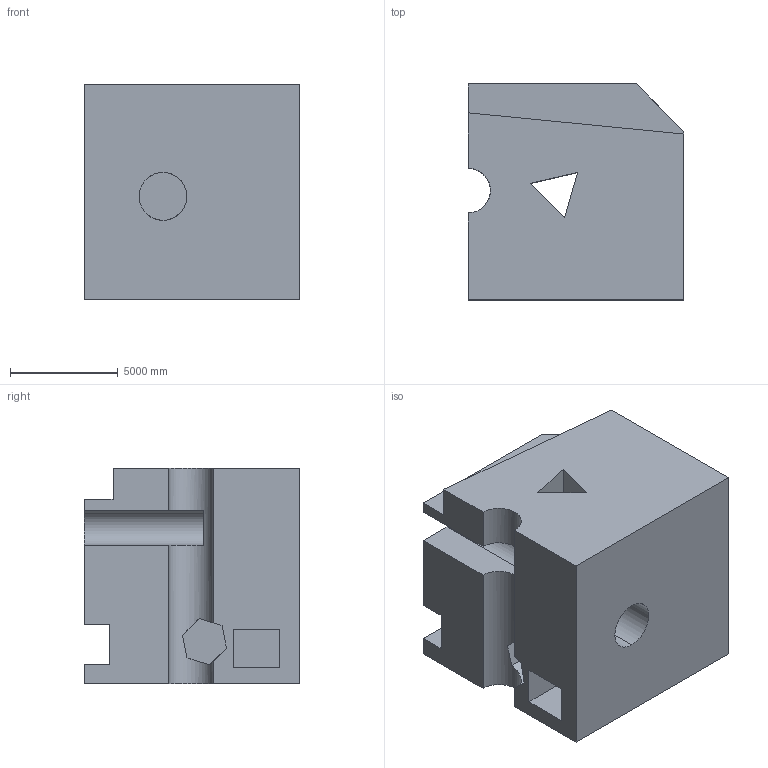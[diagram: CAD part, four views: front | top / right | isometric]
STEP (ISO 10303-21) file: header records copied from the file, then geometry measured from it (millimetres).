
FILE_DESCRIPTION (( 'STEP AP203' ), '1' );
FILE_NAME ('1944.STEP', '2022-08-23T09:47:20', ( 'user' ), ( '' ), 'SwSTEP 2.0', 'SolidWorks 2021', '' );
FILE_SCHEMA (( 'CONFIG_CONTROL_DESIGN' ));
Length unit declared in the file: centimetre
Products named in the file (1): 1944
Bounding box: 10000 x 10000 x 10000 mm (x, y, z)
Volume: 830439858131.7 mm3; surface area: 755702632.2 mm2
Topology: 1 solids, 1 shells, 49 faces, 147 edges, 98 vertices
Faces by surface type: plane 42, cylinder 7
Entity records: 1724 total; most frequent: CARTESIAN_POINT 334, ORIENTED_EDGE 294, DIRECTION 248, EDGE_CURVE 147, VECTOR 120, LINE 120, VERTEX_POINT 98, AXIS2_PLACEMENT_3D 64
